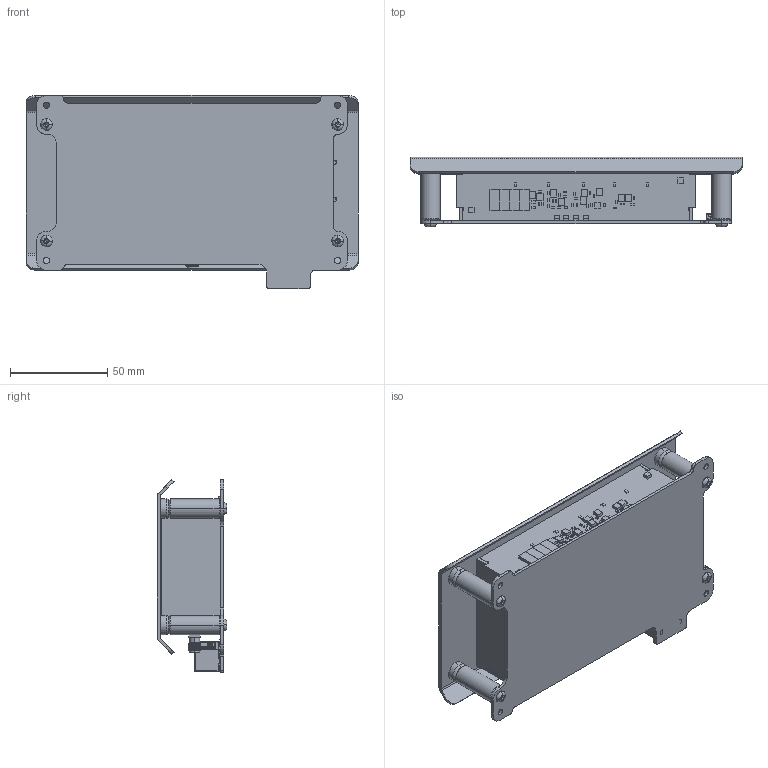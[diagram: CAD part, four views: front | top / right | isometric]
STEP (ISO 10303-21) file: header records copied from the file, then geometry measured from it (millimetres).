
FILE_DESCRIPTION (( 'STEP AP214' ), '1' );
FILE_NAME ('Snoop Pro 2.0.STEP', '2024-12-13T12:20:32', ( '' ), ( '' ), 'SwSTEP 2.0', 'SolidWorks 2021', '' );
FILE_SCHEMA (( 'AUTOMOTIVE_DESIGN' ));
Length unit declared in the file: millimetre
Products named in the file (47): SMD_PAD_2_4(8)^voy121254_snoop_pro2_feed_side_asm_Snoop Pro 2.0_C1474400; SMD_PAD_2_4(7)^voy121246_snoop_pro2_antenna_asm_Snoop Pro 2.0_C1474400; CMS-CMS-2212-A_knob^CMS-2212TA_voy121287_snoop_pro2_base_asm_Snoop Pro 2.0_C1474400; 099-490-06-20_shield^Snoop Pro 2.0_C1474400; 634008149821_Pin^RJ45_Wurth 634008149821_voy121287_snoop_pro2_base_asm_Snoop Pro 2.0_C1474400; VOY121287_SNOOP_PRO2_BASE^voy121287_snoop_pro2_base_asm_Snoop Pro 2.0_C1474400; 0603^voy121246_snoop_pro2_antenna_asm_Snoop Pro 2.0_C1474400; voy121287_snoop_pro2_base_asm^Snoop Pro 2.0_C1474400; Snoop Pro 2.0; SMD_PAD_2_4(10)^voy121274_snoop_pro2_end_blanc_asm_Snoop Pro 2.0_C1474400; LED-CREE-XLAMP^voy121265_snoop_pro2_led_strobe_asm_Snoop Pro 2.0_C1474400; magnet_support^Snoop Pro 2.0_C1474400; Snoop_Pro_2.0_top_plate^Snoop Pro 2.0_C1474400; 634008149821_Shielding^RJ45_Wurth 634008149821_voy121287_snoop_pro2_base_asm_Snoop Pro 2.0_C1474400; Supermagnete_CSN-10^Snoop Pro 2.0_C1474400; voy121254_snoop_pro2_feed_side_asm^Snoop Pro 2.0_C1474400; SOT-523^voy121265_snoop_pro2_led_strobe_asm_Snoop Pro 2.0_C1474400; SMD_PAD_2_4(9)^voy121265_snoop_pro2_led_strobe_asm_Snoop Pro 2.0_C1474400; 0603(2)^voy121265_snoop_pro2_led_strobe_asm_Snoop Pro 2.0_C1474400; SMD_PAD_2_4(11)^voy121287_snoop_pro2_base_asm_Snoop Pro 2.0_C1474400; 7343_15^voy121265_snoop_pro2_led_strobe_asm_Snoop Pro 2.0_C1474400; voy121265_snoop_pro2_led_strobe_asm^Snoop Pro 2.0_C1474400; SOT23-3^voy121265_snoop_pro2_led_strobe_asm_Snoop Pro 2.0_C1474400; 1206^voy121246_snoop_pro2_antenna_asm_Snoop Pro 2.0_C1474400; SMD_PAD_2_4(12)^voy121292_snoop_pro2_sw_end_rev_asm_Snoop Pro 2.0_C1474400; voy121292_snoop_pro2_sw_end_rev_asm^Snoop Pro 2.0_C1474400; M3x6 ISO7380 screw^Snoop Pro 2.0_C1474400; RJ45_Wurth 634008149821^voy121287_snoop_pro2_base_asm_Snoop Pro 2.0_C1474400; VOY121254_SNOOP_PRO2_FEED_SIDE^voy121254_snoop_pro2_feed_side_asm_Snoop Pro 2.0_C1474400; M2.5x10 Tx8 A2 -  RND 610-00522^Snoop Pro 2.0_C1474400; VOY121265_SNOOP_PRO2_LED_STROBE^voy121265_snoop_pro2_led_strobe_asm_Snoop Pro 2.0_C1474400; Molex 73391-0070^voy121254_snoop_pro2_feed_side_asm_Snoop Pro 2.0_C1474400; FIDUCIAL^voy121265_snoop_pro2_led_strobe_asm_Snoop Pro 2.0_C1474400; VOY121246_SNOOP_PRO2_ANTENNA^voy121246_snoop_pro2_antenna_asm_Snoop Pro 2.0_C1474400; FIDUCIAL(2)^voy121287_snoop_pro2_base_asm_Snoop Pro 2.0_C1474400; voy121274_snoop_pro2_end_blanc_asm^Snoop Pro 2.0_C1474400; voy121246_snoop_pro2_antenna_asm^Snoop Pro 2.0_C1474400; 634008149821_Housing^RJ45_Wurth 634008149821_voy121287_snoop_pro2_base_asm_Snoop Pro 2.0_C1474400; CMS-2212-A-body^CMS-2212TA_voy121287_snoop_pro2_base_asm_Snoop Pro 2.0_C1474400; BALUN-BL18^voy121254_snoop_pro2_feed_side_asm_Snoop Pro 2.0_C1474400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
Assembly tree (139 placements, depth 4):
  099-490-06-20_shield^Snoop Pro 2.0_C1474400
  Snoop Pro 2.0
    voy121287_snoop_pro2_base_asm^Snoop Pro 2.0_C1474400
      VOY121287_SNOOP_PRO2_BASE^voy121287_snoop_pro2_base_asm_Snoop Pro 2.0_C1474400
      SMD_PAD_2_4(11)^voy121287_snoop_pro2_base_asm_Snoop Pro 2.0_C1474400  x4
      FIDUCIAL(2)^voy121287_snoop_pro2_base_asm_Snoop Pro 2.0_C1474400  x3
      RJ45_Wurth 634008149821^voy121287_snoop_pro2_base_asm_Snoop Pro 2.0_C1474400
        634008149821_Housing^RJ45_Wurth 634008149821_voy121287_snoop_pro2_base_asm_Snoop Pro 2.0_C1474400
        634008149821_Housing2^RJ45_Wurth 634008149821_voy121287_snoop_pro2_base_asm_Snoop Pro 2.0_C1474400
        634008149821_Pin^RJ45_Wurth 634008149821_voy121287_snoop_pro2_base_asm_Snoop Pro 2.0_C1474400  x8
        634008149821_Shielding^RJ45_Wurth 634008149821_voy121287_snoop_pro2_base_asm_Snoop Pro 2.0_C1474400
      CMS-2212TA^voy121287_snoop_pro2_base_asm_Snoop Pro 2.0_C1474400  x2
        CMS-2212-A-body^CMS-2212TA_voy121287_snoop_pro2_base_asm_Snoop Pro 2.0_C1474400
        CMS-CMS-2212-A_knob^CMS-2212TA_voy121287_snoop_pro2_base_asm_Snoop Pro 2.0_C1474400
    voy121254_snoop_pro2_feed_side_asm^Snoop Pro 2.0_C1474400
      VOY121254_SNOOP_PRO2_FEED_SIDE^voy121254_snoop_pro2_feed_side_asm_Snoop Pro 2.0_C1474400
      BALUN-BL18^voy121254_snoop_pro2_feed_side_asm_Snoop Pro 2.0_C1474400
      SMD_PAD_2_4(8)^voy121254_snoop_pro2_feed_side_asm_Snoop Pro 2.0_C1474400  x2
      Molex 73391-0070^voy121254_snoop_pro2_feed_side_asm_Snoop Pro 2.0_C1474400
    voy121265_snoop_pro2_led_strobe_asm^Snoop Pro 2.0_C1474400
      VOY121265_SNOOP_PRO2_LED_STROBE^voy121265_snoop_pro2_led_strobe_asm_Snoop Pro 2.0_C1474400
      SMD_PAD_2_4(9)^voy121265_snoop_pro2_led_strobe_asm_Snoop Pro 2.0_C1474400  x4
      0603(2)^voy121265_snoop_pro2_led_strobe_asm_Snoop Pro 2.0_C1474400  x26
      7343_15^voy121265_snoop_pro2_led_strobe_asm_Snoop Pro 2.0_C1474400  x4
      0805^voy121265_snoop_pro2_led_strobe_asm_Snoop Pro 2.0_C1474400  x9
      SOT23-3^voy121265_snoop_pro2_led_strobe_asm_Snoop Pro 2.0_C1474400  x9
      FIDUCIAL^voy121265_snoop_pro2_led_strobe_asm_Snoop Pro 2.0_C1474400  x4
      LED-CREE-XLAMP^voy121265_snoop_pro2_led_strobe_asm_Snoop Pro 2.0_C1474400  x5
      SOT-523^voy121265_snoop_pro2_led_strobe_asm_Snoop Pro 2.0_C1474400
      0402^voy121265_snoop_pro2_led_strobe_asm_Snoop Pro 2.0_C1474400  x5
    voy121274_snoop_pro2_end_blanc_asm^Snoop Pro 2.0_C1474400
      VOY121274_SNOOP_PRO2_END_BLANC^voy121274_snoop_pro2_end_blanc_asm_Snoop Pro 2.0_C1474400
      SMD_PAD_2_4(10)^voy121274_snoop_pro2_end_blanc_asm_Snoop Pro 2.0_C1474400
    voy121292_snoop_pro2_sw_end_rev_asm^Snoop Pro 2.0_C1474400
      VOY121292_SNOOP_PRO2_SW_END_REV^voy121292_snoop_pro2_sw_end_rev_asm_Snoop Pro 2.0_C1474400
      SMD_PAD_2_4(12)^voy121292_snoop_pro2_sw_end_rev_asm_Snoop Pro 2.0_C1474400
    voy121246_snoop_pro2_antenna_asm^Snoop Pro 2.0_C1474400
      VOY121246_SNOOP_PRO2_ANTENNA^voy121246_snoop_pro2_antenna_asm_Snoop Pro 2.0_C1474400
      1206^voy121246_snoop_pro2_antenna_asm_Snoop Pro 2.0_C1474400  x6
      SMD_PAD_2_4(7)^voy121246_snoop_pro2_antenna_asm_Snoop Pro 2.0_C1474400  x2
      0603^voy121246_snoop_pro2_antenna_asm_Snoop Pro 2.0_C1474400  x2
      SMD_NUT_FOR_ILLUSTRATION^voy121246_snoop_pro2_antenna_asm_Snoop Pro 2.0_C1474400  x4
    magnet_support^Snoop Pro 2.0_C1474400  x4
    Supermagnete_CSN-10^Snoop Pro 2.0_C1474400  x4
    M2.5x10 Tx8 A2 -  RND 610-00522^Snoop Pro 2.0_C1474400  x4
    M3x6 ISO7380 screw^Snoop Pro 2.0_C1474400  x4
    Snoop_Pro_2.0_top_plate^Snoop Pro 2.0_C1474400
Bounding box: 171 x 35.85 x 99.55 mm (x, y, z)
Volume: 83733.1 mm3; surface area: 112019.3 mm2
Topology: 132 solids, 132 shells, 3166 faces, 7708 edges, 4760 vertices
Faces by surface type: plane 1750, cylinder 863, cone 435, torus 106, sphere 10, bspline 2
Entity records: 55413 total; most frequent: CARTESIAN_POINT 13384, DIRECTION 8090, ORIENTED_EDGE 7956, EDGE_CURVE 3978, VECTOR 3048, LINE 3048, AXIS2_PLACEMENT_3D 2521, VERTEX_POINT 2517
